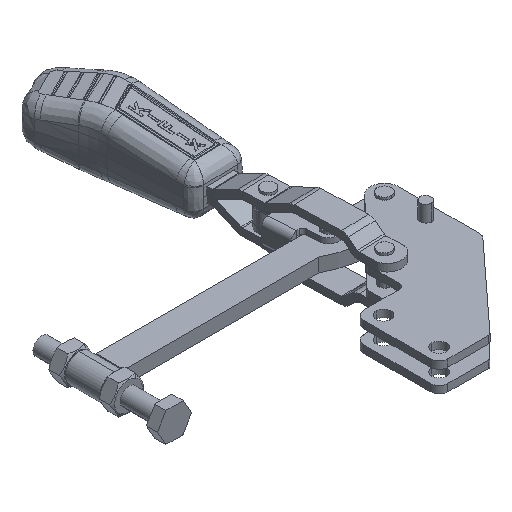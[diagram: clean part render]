
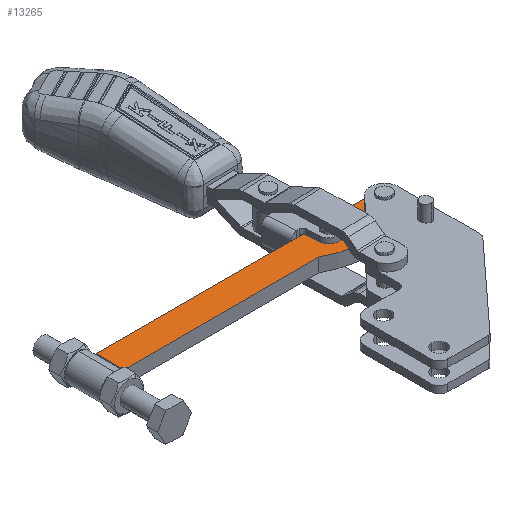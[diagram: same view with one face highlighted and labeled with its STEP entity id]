
A CAD part, isometric view. The second image highlights one B-rep face of the part: STEP entity #13265.
In plain terms, the highlighted planar face has unit normal (0, 0, 1).
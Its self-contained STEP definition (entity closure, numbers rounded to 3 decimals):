
#28 = CARTESIAN_POINT ( 'NONE',  ( -157.667, 0., 0. ) ) ;
#44 = EDGE_CURVE ( 'NONE', #13120, #8857, #5099, .T. ) ;
#493 = EDGE_CURVE ( 'NONE', #18013, #4181, #23211, .T. ) ;
#612 = DIRECTION ( 'NONE',  ( 0., 0., 1. ) ) ;
#1217 = DIRECTION ( 'NONE',  ( 1., 0., 0. ) ) ;
#1385 = EDGE_CURVE ( 'NONE', #8857, #12824, #22060, .T. ) ;
#1887 = DIRECTION ( 'NONE',  ( 0., 0., 1. ) ) ;
#1889 = DIRECTION ( 'NONE',  ( 1., 0., 0. ) ) ;
#2081 = CARTESIAN_POINT ( 'NONE',  ( -136., -37., 0. ) ) ;
#2876 = CARTESIAN_POINT ( 'NONE',  ( -160., -8., 0. ) ) ;
#3603 = CARTESIAN_POINT ( 'NONE',  ( -112., 8., 0. ) ) ;
#3775 = AXIS2_PLACEMENT_3D ( 'NONE', #15166, #4126, #17017 ) ;
#3951 = DIRECTION ( 'NONE',  ( 1., 0., 0. ) ) ;
#4069 = FACE_BOUND ( 'NONE', #16770, .T. ) ;
#4126 = DIRECTION ( 'NONE',  ( 0., 0., 1. ) ) ;
#4181 = VERTEX_POINT ( 'NONE', #11377 ) ;
#4342 = ORIENTED_EDGE ( 'NONE', *, *, #1385, .T. ) ;
#4497 = VECTOR ( 'NONE', #4595, 1000. ) ;
#4556 = CIRCLE ( 'NONE', #20259, 8.333 ) ;
#4595 = DIRECTION ( 'NONE',  ( -1., 0., 0. ) ) ;
#5099 = LINE ( 'NONE', #15620, #4497 ) ;
#5378 = ORIENTED_EDGE ( 'NONE', *, *, #12918, .T. ) ;
#5392 = DIRECTION ( 'NONE',  ( 0., 0., 1. ) ) ;
#5566 = EDGE_LOOP ( 'NONE', ( #23701, #7641 ) ) ;
#6236 = AXIS2_PLACEMENT_3D ( 'NONE', #23265, #12286, #1217 ) ;
#6687 = EDGE_CURVE ( 'NONE', #14361, #9089, #8998, .T. ) ;
#7053 = CARTESIAN_POINT ( 'NONE',  ( 0., 8., 0. ) ) ;
#7114 = ORIENTED_EDGE ( 'NONE', *, *, #6687, .T. ) ;
#7403 = VECTOR ( 'NONE', #12593, 1000. ) ;
#7641 = ORIENTED_EDGE ( 'NONE', *, *, #15324, .F. ) ;
#7740 = VERTEX_POINT ( 'NONE', #18755 ) ;
#8142 = CIRCLE ( 'NONE', #16545, 3.2 ) ;
#8420 = FACE_OUTER_BOUND ( 'NONE', #12329, .T. ) ;
#8857 = VERTEX_POINT ( 'NONE', #3603 ) ;
#8998 = LINE ( 'NONE', #23569, #18150 ) ;
#9089 = VERTEX_POINT ( 'NONE', #22813 ) ;
#10106 = EDGE_CURVE ( 'NONE', #12824, #14361, #4556, .T. ) ;
#10842 = DIRECTION ( 'NONE',  ( 1., 0., 0. ) ) ;
#11309 = CIRCLE ( 'NONE', #6236, 3.2 ) ;
#11377 = CARTESIAN_POINT ( 'NONE',  ( -160.867, 0., 0. ) ) ;
#11689 = CARTESIAN_POINT ( 'NONE',  ( -157.667, 0., 0. ) ) ;
#11724 = LINE ( 'NONE', #16678, #7403 ) ;
#12286 = DIRECTION ( 'NONE',  ( 0., 0., 1. ) ) ;
#12329 = EDGE_LOOP ( 'NONE', ( #5378, #19055, #4342, #14424, #7114 ) ) ;
#12593 = DIRECTION ( 'NONE',  ( 0., 1., 0. ) ) ;
#12824 = VERTEX_POINT ( 'NONE', #19537 ) ;
#12918 = EDGE_CURVE ( 'NONE', #9089, #13120, #11724, .T. ) ;
#12938 = PLANE ( 'NONE',  #22031 ) ;
#12941 = DIRECTION ( 'NONE',  ( 0., 0., 1. ) ) ;
#13120 = VERTEX_POINT ( 'NONE', #7053 ) ;
#13265 = ADVANCED_FACE ( 'NONE', ( #22506, #4069, #8420 ), #12938, .T. ) ;
#13518 = DIRECTION ( 'NONE',  ( 1., 0., 0. ) ) ;
#14082 = ORIENTED_EDGE ( 'NONE', *, *, #18624, .F. ) ;
#14361 = VERTEX_POINT ( 'NONE', #2876 ) ;
#14424 = ORIENTED_EDGE ( 'NONE', *, *, #10106, .T. ) ;
#14693 = CARTESIAN_POINT ( 'NONE',  ( -157.667, 0., 0. ) ) ;
#14771 = DIRECTION ( 'NONE',  ( 1., 0., 0. ) ) ;
#14989 = DIRECTION ( 'NONE',  ( 0., 0., 1. ) ) ;
#15166 = CARTESIAN_POINT ( 'NONE',  ( -157.667, 0., 0. ) ) ;
#15324 = EDGE_CURVE ( 'NONE', #4181, #18013, #20403, .T. ) ;
#15620 = CARTESIAN_POINT ( 'NONE',  ( 0., 8., 0. ) ) ;
#16206 = EDGE_CURVE ( 'NONE', #16362, #7740, #8142, .T. ) ;
#16340 = ORIENTED_EDGE ( 'NONE', *, *, #16206, .F. ) ;
#16362 = VERTEX_POINT ( 'NONE', #18646 ) ;
#16423 = CARTESIAN_POINT ( 'NONE',  ( -125.667, 0., 0. ) ) ;
#16440 = AXIS2_PLACEMENT_3D ( 'NONE', #2081, #14989, #3951 ) ;
#16545 = AXIS2_PLACEMENT_3D ( 'NONE', #16423, #5392, #18247 ) ;
#16678 = CARTESIAN_POINT ( 'NONE',  ( 0., -8., 0. ) ) ;
#16770 = EDGE_LOOP ( 'NONE', ( #14082, #16340 ) ) ;
#17017 = DIRECTION ( 'NONE',  ( 1., 0., 0. ) ) ;
#17209 = CARTESIAN_POINT ( 'NONE',  ( -154.467, 0., 0. ) ) ;
#18013 = VERTEX_POINT ( 'NONE', #17209 ) ;
#18150 = VECTOR ( 'NONE', #10842, 1000. ) ;
#18247 = DIRECTION ( 'NONE',  ( 1., 0., 0. ) ) ;
#18624 = EDGE_CURVE ( 'NONE', #7740, #16362, #11309, .T. ) ;
#18646 = CARTESIAN_POINT ( 'NONE',  ( -128.867, 0., 0. ) ) ;
#18755 = CARTESIAN_POINT ( 'NONE',  ( -122.467, 0., 0. ) ) ;
#19055 = ORIENTED_EDGE ( 'NONE', *, *, #44, .T. ) ;
#19537 = CARTESIAN_POINT ( 'NONE',  ( -160., 8., 0. ) ) ;
#20259 = AXIS2_PLACEMENT_3D ( 'NONE', #11689, #612, #13518 ) ;
#20362 = AXIS2_PLACEMENT_3D ( 'NONE', #28, #12941, #1889 ) ;
#20403 = CIRCLE ( 'NONE', #20362, 3.2 ) ;
#22031 = AXIS2_PLACEMENT_3D ( 'NONE', #14693, #1887, #14771 ) ;
#22060 = CIRCLE ( 'NONE', #16440, 51. ) ;
#22506 = FACE_BOUND ( 'NONE', #5566, .T. ) ;
#22813 = CARTESIAN_POINT ( 'NONE',  ( 0., -8., 0. ) ) ;
#23211 = CIRCLE ( 'NONE', #3775, 3.2 ) ;
#23265 = CARTESIAN_POINT ( 'NONE',  ( -125.667, 0., 0. ) ) ;
#23569 = CARTESIAN_POINT ( 'NONE',  ( -160., -8., 0. ) ) ;
#23701 = ORIENTED_EDGE ( 'NONE', *, *, #493, .F. ) ;
